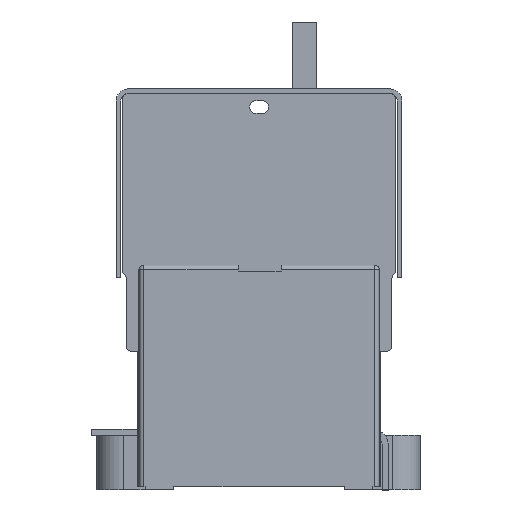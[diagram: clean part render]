
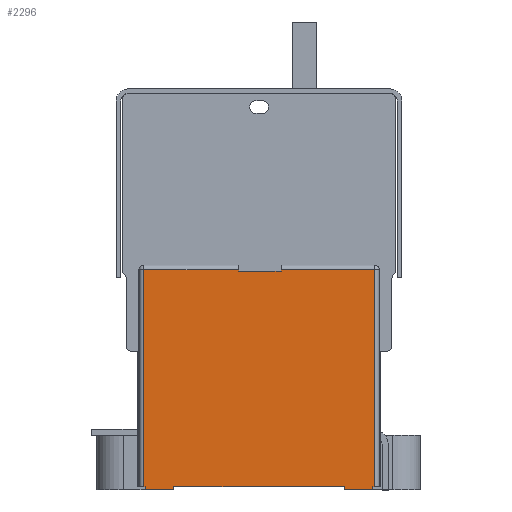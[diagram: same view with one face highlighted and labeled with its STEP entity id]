
A CAD part, left-side view. The second image highlights one B-rep face of the part: STEP entity #2296.
In plain terms, the highlighted planar face has unit normal (-1, 0, 0).
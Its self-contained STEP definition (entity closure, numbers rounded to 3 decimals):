
#2296=ADVANCED_FACE('',(#3886),#2959,.F.);
#2959=PLANE('',#21122);
#3886=FACE_OUTER_BOUND('',#5060,.T.);
#5060=EDGE_LOOP('',(#10109,#10110,#10111,#10112,#10113,#10114,#10115,#10116,
#10117,#10118,#10119,#10120,#10121,#10122,#10123,#10124));
#10109=ORIENTED_EDGE('',*,*,#15279,.F.);
#10110=ORIENTED_EDGE('',*,*,#15069,.T.);
#10111=ORIENTED_EDGE('',*,*,#14893,.T.);
#10112=ORIENTED_EDGE('',*,*,#15281,.F.);
#10113=ORIENTED_EDGE('',*,*,#14896,.T.);
#10114=ORIENTED_EDGE('',*,*,#15029,.T.);
#10115=ORIENTED_EDGE('',*,*,#15282,.T.);
#10116=ORIENTED_EDGE('',*,*,#15283,.T.);
#10117=ORIENTED_EDGE('',*,*,#15284,.F.);
#10118=ORIENTED_EDGE('',*,*,#15116,.F.);
#10119=ORIENTED_EDGE('',*,*,#15121,.T.);
#10120=ORIENTED_EDGE('',*,*,#15285,.T.);
#10121=ORIENTED_EDGE('',*,*,#15129,.F.);
#10122=ORIENTED_EDGE('',*,*,#15123,.F.);
#10123=ORIENTED_EDGE('',*,*,#15286,.T.);
#10124=ORIENTED_EDGE('',*,*,#15287,.T.);
#12323=VERTEX_POINT('',#31486);
#12324=VERTEX_POINT('',#31488);
#12326=VERTEX_POINT('',#31494);
#12327=VERTEX_POINT('',#31495);
#12415=VERTEX_POINT('',#31800);
#12416=VERTEX_POINT('',#31804);
#12462=VERTEX_POINT('',#31985);
#12463=VERTEX_POINT('',#31986);
#12467=VERTEX_POINT('',#31995);
#12468=VERTEX_POINT('',#32000);
#12469=VERTEX_POINT('',#32001);
#12472=VERTEX_POINT('',#32009);
#12563=VERTEX_POINT('',#32297);
#12564=VERTEX_POINT('',#32302);
#12565=VERTEX_POINT('',#32304);
#12566=VERTEX_POINT('',#32308);
#14893=EDGE_CURVE('',#12324,#12323,#17089,.T.);
#14896=EDGE_CURVE('',#12326,#12327,#17091,.T.);
#15029=EDGE_CURVE('',#12327,#12416,#17161,.T.);
#15069=EDGE_CURVE('',#12415,#12324,#17177,.T.);
#15116=EDGE_CURVE('',#12462,#12463,#17212,.T.);
#15121=EDGE_CURVE('',#12462,#12467,#17217,.T.);
#15123=EDGE_CURVE('',#12468,#12469,#17219,.T.);
#15129=EDGE_CURVE('',#12469,#12472,#17225,.T.);
#15279=EDGE_CURVE('',#12415,#12563,#17362,.T.);
#15281=EDGE_CURVE('',#12326,#12323,#17363,.T.);
#15282=EDGE_CURVE('',#12416,#12564,#17364,.T.);
#15283=EDGE_CURVE('',#12564,#12565,#17365,.T.);
#15284=EDGE_CURVE('',#12463,#12565,#17366,.T.);
#15285=EDGE_CURVE('',#12467,#12472,#17367,.T.);
#15286=EDGE_CURVE('',#12468,#12566,#17368,.T.);
#15287=EDGE_CURVE('',#12566,#12563,#17369,.T.);
#17089=LINE('',#31487,#19158);
#17091=LINE('',#31493,#19160);
#17161=LINE('',#31805,#19230);
#17177=LINE('',#31885,#19246);
#17212=LINE('',#31984,#19281);
#17217=LINE('',#31996,#19286);
#17219=LINE('',#31999,#19288);
#17225=LINE('',#32012,#19294);
#17362=LINE('',#32296,#19431);
#17363=LINE('',#32300,#19432);
#17364=LINE('',#32301,#19433);
#17365=LINE('',#32303,#19434);
#17366=LINE('',#32305,#19435);
#17367=LINE('',#32306,#19436);
#17368=LINE('',#32307,#19437);
#17369=LINE('',#32309,#19438);
#19158=VECTOR('',#25503,1.);
#19160=VECTOR('',#25509,1.);
#19230=VECTOR('',#25797,1.);
#19246=VECTOR('',#25909,1.);
#19281=VECTOR('',#26014,1.);
#19286=VECTOR('',#26021,1.);
#19288=VECTOR('',#26025,1.);
#19294=VECTOR('',#26033,1.);
#19431=VECTOR('',#26286,1.);
#19432=VECTOR('',#26291,1.);
#19433=VECTOR('',#26292,1.);
#19434=VECTOR('',#26293,1.);
#19435=VECTOR('',#26294,1.);
#19436=VECTOR('',#26295,1.);
#19437=VECTOR('',#26296,1.);
#19438=VECTOR('',#26297,1.);
#21122=AXIS2_PLACEMENT_3D('',#32310,#26298,#26299);
#25503=DIRECTION('',(0.,0.,-1.));
#25509=DIRECTION('',(0.,0.,1.));
#25797=DIRECTION('',(0.,1.,0.));
#25909=DIRECTION('',(0.,1.,0.));
#26014=DIRECTION('',(0.,1.,0.));
#26021=DIRECTION('',(0.,0.,1.));
#26025=DIRECTION('',(0.,1.,0.));
#26033=DIRECTION('',(0.,0.,1.));
#26286=DIRECTION('',(0.,0.,-1.));
#26291=DIRECTION('',(0.,-1.,0.));
#26292=DIRECTION('',(0.,0.,-1.));
#26293=DIRECTION('',(0.,-1.,0.));
#26294=DIRECTION('',(0.,0.,1.));
#26295=DIRECTION('',(0.,-1.,0.));
#26296=DIRECTION('',(0.,0.,1.));
#26297=DIRECTION('',(0.,-1.,0.));
#26298=DIRECTION('',(1.,0.,0.));
#26299=DIRECTION('',(0.,0.,-1.));
#31486=CARTESIAN_POINT('',(-69.,-31.985,67.));
#31487=CARTESIAN_POINT('',(-69.,-31.985,69.1));
#31488=CARTESIAN_POINT('',(-69.,-31.985,67.6));
#31493=CARTESIAN_POINT('',(-69.,-17.985,69.1));
#31494=CARTESIAN_POINT('',(-69.,-17.985,67.));
#31495=CARTESIAN_POINT('',(-69.,-17.985,67.6));
#31800=CARTESIAN_POINT('',(-69.,-62.735,67.6));
#31804=CARTESIAN_POINT('',(-69.,13.265,67.6));
#31805=CARTESIAN_POINT('',(-69.,13.265,67.6));
#31885=CARTESIAN_POINT('',(-69.,13.265,67.6));
#31984=CARTESIAN_POINT('',(-69.,3.265,-4.9));
#31985=CARTESIAN_POINT('',(-69.,3.265,-4.9));
#31986=CARTESIAN_POINT('',(-69.,12.765,-4.9));
#31995=CARTESIAN_POINT('',(-69.,3.265,-3.9));
#31996=CARTESIAN_POINT('',(-69.,3.265,-5.9));
#31999=CARTESIAN_POINT('',(-69.,-62.235,-4.9));
#32000=CARTESIAN_POINT('',(-69.,-62.235,-4.9));
#32001=CARTESIAN_POINT('',(-69.,-52.735,-4.9));
#32009=CARTESIAN_POINT('',(-69.,-52.735,-3.9));
#32012=CARTESIAN_POINT('',(-69.,-52.735,-5.9));
#32296=CARTESIAN_POINT('',(-69.,-62.735,69.1));
#32297=CARTESIAN_POINT('',(-69.,-62.735,-3.9));
#32300=CARTESIAN_POINT('',(-69.,12.765,67.));
#32301=CARTESIAN_POINT('',(-69.,13.265,69.1));
#32302=CARTESIAN_POINT('',(-69.,13.265,-3.9));
#32303=CARTESIAN_POINT('',(-69.,-62.235,-3.9));
#32304=CARTESIAN_POINT('',(-69.,12.765,-3.9));
#32305=CARTESIAN_POINT('',(-69.,12.765,-5.9));
#32306=CARTESIAN_POINT('',(-69.,-62.235,-3.9));
#32307=CARTESIAN_POINT('',(-69.,-62.235,-5.9));
#32308=CARTESIAN_POINT('',(-69.,-62.235,-3.9));
#32309=CARTESIAN_POINT('',(-69.,-62.235,-3.9));
#32310=CARTESIAN_POINT('',(-69.,-62.235,69.1));
